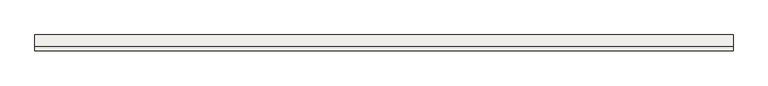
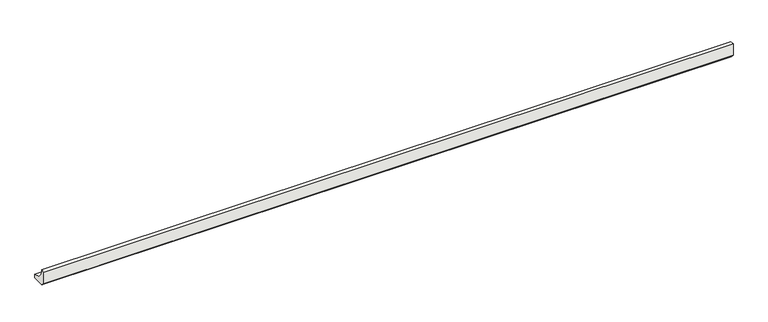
"""IFC4 building model written with IfcOpenShell, lengths in millimetres: slab geometry, ROSA GRES_112 : Pieza 112_Aqua_Plomo_Liso."""

from ifc_helpers import new_model, si_unit, point, frame, frame_2d, origin, place, context, project, spatial, polyline, circle_curve, trimmed, segment, composite_curve, outline, extrude, source, transform, mapped, element, save


def slab_e5be7060(model_context):
    return source(origin(), model_context, "Body", "SweptSolid", [
        extrude(outline(composite_curve([segment(polyline([(0.0, 8.7114978), (0.0, 40.0), (9.9734114, 40.0)]), True, "CONTINUOUS"), segment(trimmed(circle_curve(frame_2d((39.9955547, 39.9955547)), 30.0221435), [point((9.9734114, 40.0))], [point((40.0, 9.9734114))], True, "CARTESIAN"), True, "CONTINUOUS"), segment(polyline([(40.0, 9.9734114), (40.0, 0.0), (8.7114978, 0.0), (0.0, 8.7114978)]), True, "CONTINUOUS")], self_intersect=False)), frame((0.0, 0.0, 0.0), z_axis=(1.0, 0.0, 0.0), x_axis=(0.0, 1.0, 0.0)), (0.0, 0.0, 1.0), 1758.8667893),
    ])


if __name__ == "__main__":
    model = new_model("IFC4")
    model_context = context("Model", 3, world=origin())
    ifc_project = project(units=[si_unit("LENGTHUNIT", "METRE", prefix="MILLI")], contexts=[model_context])
    site = spatial("IfcSite", under=ifc_project)
    building = spatial("IfcBuilding", under=site)
    placement = place(None, origin())
    slab_shape = slab_e5be7060(model_context)
    element("IfcSlab", 1, ObjectType="ROSA GRES_112 : Pieza 112_Aqua_Plomo_Liso", at=placement, inside=building, context=model_context, shape_type="MappedRepresentation", body=[
        mapped(slab_shape, transform((0.0, 0.0, 0.0), x_axis=(1.0, 0.0, 0.0), y_axis=(0.0, 1.0, 0.0), z_axis=(0.0, 0.0, 1.0))),
    ])
    save(model, "model.ifc")
